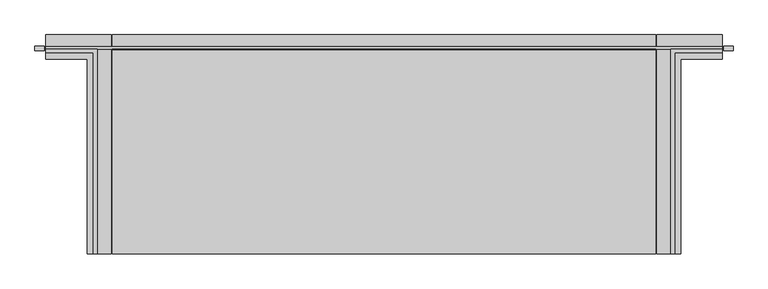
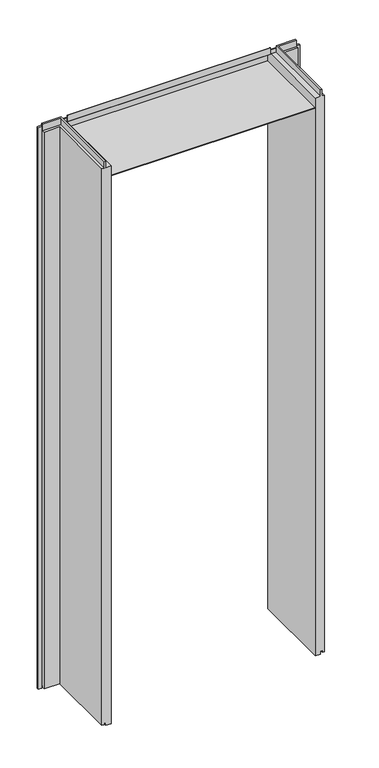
"""IFC4 building model written with IfcOpenShell, lengths in millimetres: plate geometry, Trimo_Qbiss Screen_Wall Opening Trims-HORIZONTAL : HR - B."""

from ifc_helpers import new_model, si_unit, frame, origin, origin_with_axes, place, context, project, spatial, polyline, outline, extrude, faceted_brep, source, transform, mapped, element, save


def plate_3d22d70f(model_context):
    return source(origin(), model_context, "Body", "SolidModel", [
        faceted_brep([(-695.0, 71.0, 3228.8), (-695.0, 100.0, 3228.8), (-695.0, 100.0, 0.0), (-695.0, 72.0, 0.0), (-695.0, 72.0, 15.5), (-695.0, 62.0, 15.5), (-695.0, 62.0, 7.0), (-695.0, 50.0, 7.0), (-695.0, 50.0, 3228.8), (-695.0, 63.0, 3228.8), (-695.0, 63.0, 3266.3), (-695.0, 71.0, 3266.3), (-589.0, 71.0, 3228.8), (-589.0, -350.0, 3228.8), (-560.0, -350.0, 3228.8), (-560.0, 100.0, 3228.8), (-560.0, 100.0, 0.0), (-560.0, -350.0, 0.0), (-588.0, -350.0, 0.0), (-588.0, 72.0, 0.0), (-588.0, 72.0, 15.5), (-588.0, -350.0, 15.5), (-598.0, -350.0, 15.5), (-598.0, 62.0, 15.5), (-598.0, 62.0, 7.0), (-598.0, -350.0, 7.0), (-610.0, -350.0, 7.0), (-610.0, 50.0, 7.0), (-610.0, 50.0, 3228.8), (-610.0, -350.0, 3228.8), (-597.0, -350.0, 3228.8), (-597.0, 63.0, 3228.8), (-597.0, 63.0, 3266.3), (-597.0, -350.0, 3266.3), (-589.0, -350.0, 3266.3), (-589.0, 71.0, 3266.3)], [[[0, 1, 2, 3, 4, 5, 6, 7, 8, 9, 10, 11]], [[1, 0, 12, 13, 14, 15]], [[2, 1, 15, 16]], [[3, 2, 16, 17, 18, 19]], [[4, 3, 19, 20]], [[5, 4, 20, 21, 22, 23]], [[6, 5, 23, 24]], [[7, 6, 24, 25, 26, 27]], [[8, 7, 27, 28]], [[9, 8, 28, 29, 30, 31]], [[10, 9, 31, 32]], [[11, 10, 32, 33, 34, 35]], [[0, 11, 35, 12]], [[13, 34, 33, 30, 29, 26, 25, 22, 21, 18, 17, 14]], [[16, 15, 14, 17]], [[20, 19, 18, 21]], [[24, 23, 22, 25]], [[28, 27, 26, 29]], [[32, 31, 30, 33]], [[12, 35, 34, 13]]]),
        faceted_brep([(589.0, -350.0, 3228.8), (560.0, -350.0, 3228.8), (560.0, -350.0, 0.0), (588.0, -350.0, 0.0), (588.0, -350.0, 15.5), (598.0, -350.0, 15.5), (598.0, -350.0, 7.0), (610.0, -350.0, 7.0), (610.0, -350.0, 3228.8), (597.0, -350.0, 3228.8), (597.0, -350.0, 3266.3), (589.0, -350.0, 3266.3), (560.0, 100.0, 0.0), (560.0, 100.0, 3228.8), (695.0, 100.0, 3228.8), (695.0, 100.0, 0.0), (588.0, 72.0, 15.5), (588.0, 72.0, 0.0), (695.0, 72.0, 0.0), (695.0, 72.0, 15.5), (598.0, 62.0, 7.0), (598.0, 62.0, 15.5), (695.0, 62.0, 15.5), (695.0, 62.0, 7.0), (610.0, 50.0, 3228.8), (610.0, 50.0, 7.0), (695.0, 50.0, 7.0), (695.0, 50.0, 3228.8), (597.0, 63.0, 3266.3), (597.0, 63.0, 3228.8), (695.0, 63.0, 3228.8), (695.0, 63.0, 3266.3), (589.0, 71.0, 3228.8), (589.0, 71.0, 3266.3), (695.0, 71.0, 3266.3), (695.0, 71.0, 3228.8)], [[[0, 1, 2, 3, 4, 5, 6, 7, 8, 9, 10, 11]], [[12, 13, 14, 15]], [[16, 17, 18, 19]], [[20, 21, 22, 23]], [[24, 25, 26, 27]], [[28, 29, 30, 31]], [[32, 33, 34, 35]], [[35, 34, 31, 30, 27, 26, 23, 22, 19, 18, 15, 14]], [[1, 0, 32, 35, 14, 13]], [[2, 1, 13, 12]], [[3, 2, 12, 15, 18, 17]], [[4, 3, 17, 16]], [[5, 4, 16, 19, 22, 21]], [[6, 5, 21, 20]], [[7, 6, 20, 23, 26, 25]], [[8, 7, 25, 24]], [[9, 8, 24, 27, 30, 29]], [[10, 9, 29, 28]], [[11, 10, 28, 31, 34, 33]], [[0, 11, 33, 32]]]),
        extrude(outline(polyline([(698.0, 76.5978162), (717.0, 76.5978162), (717.0, 67.8978162), (698.0, 67.8978162), (698.0, 76.5978162)])), origin_with_axes(), (0.0, 0.0, 1.0), 3228.8),
        extrude(outline(polyline([(-698.0, 76.5978162), (-698.0, 67.8978162), (-717.0, 67.8978162), (-717.0, 76.5978162), (-698.0, 76.5978162)])), origin_with_axes(), (0.0, 0.0, 1.0), 3251.8),
        extrude(outline(polyline([(71.0, 3228.8), (100.0, 3228.8), (100.0, 3170.8), (-350.0, 3170.8), (-350.0, 3171.8), (99.0, 3171.8), (99.0, 3227.8), (70.0, 3227.8), (70.0, 3266.3), (71.0, 3266.3), (71.0, 3228.8)])), frame((-558.0, 0.0, 0.0), z_axis=(1.0, 0.0, 0.0), x_axis=(0.0, 1.0, 0.0)), (0.0, 0.0, 1.0), 1116.0),
        extrude(outline(polyline([(695.0, 76.0), (695.0, 71.0), (-695.0, 71.0), (-695.0, 76.0), (695.0, 76.0)])), frame((0.0, 0.0, 3229.8), z_axis=(0.0, 0.0, 1.0), x_axis=(1.0, 0.0, 0.0)), (0.0, 0.0, 1.0), 21.0),
    ])


if __name__ == "__main__":
    model = new_model("IFC4")
    model_context = context("Model", 3, world=origin())
    ifc_project = project(units=[si_unit("LENGTHUNIT", "METRE", prefix="MILLI")], contexts=[model_context])
    site = spatial("IfcSite", under=ifc_project)
    building = spatial("IfcBuilding", under=site)
    placement = place(None, origin())
    plate_shape = plate_3d22d70f(model_context)
    element("IfcPlate", 1, ObjectType="Trimo_Qbiss Screen_Wall Opening Trims-HORIZONTAL : HR - B", at=placement, inside=building, context=model_context, shape_type="MappedRepresentation", body=[
        mapped(plate_shape, transform((0.0, 0.0, 0.0), x_axis=(1.0, 0.0, 0.0), y_axis=(0.0, 1.0, 0.0), z_axis=(0.0, 0.0, 1.0))),
    ])
    save(model, "model.ifc")
